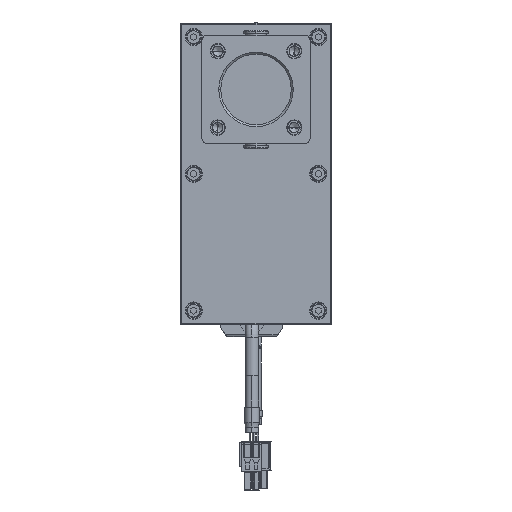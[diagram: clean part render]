
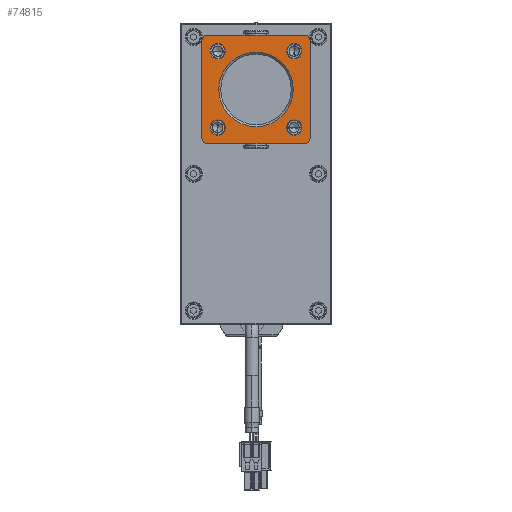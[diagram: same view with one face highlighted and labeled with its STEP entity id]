
A CAD part, front view. The second image highlights one B-rep face of the part: STEP entity #74815.
In plain terms, the highlighted planar face has unit normal (0, -1, 0).
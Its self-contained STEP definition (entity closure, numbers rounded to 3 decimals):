
#73870=CARTESIAN_POINT('',(24.,-4.5,24.));
#73871=DIRECTION('',(0.,-1.,0.));
#73872=DIRECTION('',(1.,0.,0.));
#73873=AXIS2_PLACEMENT_3D('',#73870,#73871,#73872);
#73875=DIRECTION('',(0.,0.,-1.));
#73876=VECTOR('',#73875,48.);
#73877=CARTESIAN_POINT('',(27.,-4.5,24.));
#73878=LINE('',#73877,#73876);
#73879=CARTESIAN_POINT('',(24.,-4.5,-24.));
#73880=DIRECTION('',(0.,-1.,0.));
#73881=DIRECTION('',(0.,0.,-1.));
#73882=AXIS2_PLACEMENT_3D('',#73879,#73880,#73881);
#73884=DIRECTION('',(-1.,0.,0.));
#73885=VECTOR('',#73884,48.);
#73886=CARTESIAN_POINT('',(24.,-4.5,-27.));
#73887=LINE('',#73886,#73885);
#73888=CARTESIAN_POINT('',(-24.,-4.5,-24.));
#73889=DIRECTION('',(0.,-1.,0.));
#73890=DIRECTION('',(-1.,0.,0.));
#73891=AXIS2_PLACEMENT_3D('',#73888,#73889,#73890);
#73893=DIRECTION('',(0.,0.,1.));
#73894=VECTOR('',#73893,48.);
#73895=CARTESIAN_POINT('',(-27.,-4.5,-24.));
#73896=LINE('',#73895,#73894);
#73897=CARTESIAN_POINT('',(-24.,-4.5,24.));
#73898=DIRECTION('',(0.,-1.,0.));
#73899=DIRECTION('',(0.,0.,1.));
#73900=AXIS2_PLACEMENT_3D('',#73897,#73898,#73899);
#73902=DIRECTION('',(1.,0.,0.));
#73903=VECTOR('',#73902,48.);
#73904=CARTESIAN_POINT('',(-24.,-4.5,27.));
#73905=LINE('',#73904,#73903);
#73906=CARTESIAN_POINT('',(19.,-4.5,-19.));
#73907=DIRECTION('',(0.,1.,0.));
#73908=DIRECTION('',(1.,0.,0.));
#73909=AXIS2_PLACEMENT_3D('',#73906,#73907,#73908);
#73911=CARTESIAN_POINT('',(19.,-4.5,-19.));
#73912=DIRECTION('',(0.,1.,0.));
#73913=DIRECTION('',(-1.,0.,0.));
#73914=AXIS2_PLACEMENT_3D('',#73911,#73912,#73913);
#73916=CARTESIAN_POINT('',(19.,-4.5,19.));
#73917=DIRECTION('',(0.,1.,0.));
#73918=DIRECTION('',(-1.,0.,0.));
#73919=AXIS2_PLACEMENT_3D('',#73916,#73917,#73918);
#73921=CARTESIAN_POINT('',(19.,-4.5,19.));
#73922=DIRECTION('',(0.,1.,0.));
#73923=DIRECTION('',(1.,0.,0.));
#73924=AXIS2_PLACEMENT_3D('',#73921,#73922,#73923);
#73926=CARTESIAN_POINT('',(-19.,-4.5,19.));
#73927=DIRECTION('',(0.,1.,0.));
#73928=DIRECTION('',(-1.,0.,0.));
#73929=AXIS2_PLACEMENT_3D('',#73926,#73927,#73928);
#73931=CARTESIAN_POINT('',(-19.,-4.5,19.));
#73932=DIRECTION('',(0.,1.,0.));
#73933=DIRECTION('',(1.,0.,0.));
#73934=AXIS2_PLACEMENT_3D('',#73931,#73932,#73933);
#73936=CARTESIAN_POINT('',(-19.,-4.5,-19.));
#73937=DIRECTION('',(0.,1.,0.));
#73938=DIRECTION('',(1.,0.,0.));
#73939=AXIS2_PLACEMENT_3D('',#73936,#73937,#73938);
#73941=CARTESIAN_POINT('',(-19.,-4.5,-19.));
#73942=DIRECTION('',(0.,1.,0.));
#73943=DIRECTION('',(-1.,0.,0.));
#73944=AXIS2_PLACEMENT_3D('',#73941,#73942,#73943);
#73946=CARTESIAN_POINT('',(0.,-4.5,0.));
#73947=DIRECTION('',(0.,1.,0.));
#73948=DIRECTION('',(0.,0.,1.));
#73949=AXIS2_PLACEMENT_3D('',#73946,#73947,#73948);
#73951=CARTESIAN_POINT('',(0.,-4.5,0.));
#73952=DIRECTION('',(0.,1.,0.));
#73953=DIRECTION('',(0.,0.,-1.));
#73954=AXIS2_PLACEMENT_3D('',#73951,#73952,#73953);
#74606=CARTESIAN_POINT('',(27.,-4.5,24.));
#74607=CARTESIAN_POINT('',(24.,-4.5,27.));
#74608=VERTEX_POINT('',#74606);
#74609=VERTEX_POINT('',#74607);
#74614=CARTESIAN_POINT('',(-24.,-4.5,27.));
#74615=CARTESIAN_POINT('',(-27.,-4.5,24.));
#74616=VERTEX_POINT('',#74614);
#74617=VERTEX_POINT('',#74615);
#74622=CARTESIAN_POINT('',(24.,-4.5,-27.));
#74623=CARTESIAN_POINT('',(27.,-4.5,-24.));
#74624=VERTEX_POINT('',#74622);
#74625=VERTEX_POINT('',#74623);
#74630=CARTESIAN_POINT('',(-27.,-4.5,-24.));
#74631=CARTESIAN_POINT('',(-24.,-4.5,-27.));
#74632=VERTEX_POINT('',#74630);
#74633=VERTEX_POINT('',#74631);
#74654=CARTESIAN_POINT('',(22.8,-4.5,-19.));
#74655=CARTESIAN_POINT('',(15.2,-4.5,-19.));
#74656=VERTEX_POINT('',#74654);
#74657=VERTEX_POINT('',#74655);
#74662=CARTESIAN_POINT('',(15.2,-4.5,19.));
#74663=CARTESIAN_POINT('',(22.8,-4.5,19.));
#74664=VERTEX_POINT('',#74662);
#74665=VERTEX_POINT('',#74663);
#74670=CARTESIAN_POINT('',(-22.8,-4.5,19.));
#74671=CARTESIAN_POINT('',(-15.2,-4.5,19.));
#74672=VERTEX_POINT('',#74670);
#74673=VERTEX_POINT('',#74671);
#74678=CARTESIAN_POINT('',(-15.2,-4.5,-19.));
#74679=CARTESIAN_POINT('',(-22.8,-4.5,-19.));
#74680=VERTEX_POINT('',#74678);
#74681=VERTEX_POINT('',#74679);
#74754=CARTESIAN_POINT('',(0.,-4.5,18.5));
#74755=CARTESIAN_POINT('',(0.,-4.5,-18.5));
#74756=VERTEX_POINT('',#74754);
#74757=VERTEX_POINT('',#74755);
#74762=CARTESIAN_POINT('',(0.,-4.5,0.));
#74763=DIRECTION('',(0.,1.,0.));
#74764=DIRECTION('',(1.,0.,0.));
#74765=AXIS2_PLACEMENT_3D('',#74762,#74763,#74764);
#74766=PLANE('',#74765);
#74768=ORIENTED_EDGE('',*,*,#74767,.F.);
#74770=ORIENTED_EDGE('',*,*,#74769,.T.);
#74772=ORIENTED_EDGE('',*,*,#74771,.F.);
#74774=ORIENTED_EDGE('',*,*,#74773,.T.);
#74776=ORIENTED_EDGE('',*,*,#74775,.F.);
#74778=ORIENTED_EDGE('',*,*,#74777,.T.);
#74780=ORIENTED_EDGE('',*,*,#74779,.F.);
#74782=ORIENTED_EDGE('',*,*,#74781,.T.);
#74783=EDGE_LOOP('',(#74768,#74770,#74772,#74774,#74776,#74778,#74780,#74782));
#74784=FACE_OUTER_BOUND('',#74783,.F.);
#74786=ORIENTED_EDGE('',*,*,#74785,.F.);
#74788=ORIENTED_EDGE('',*,*,#74787,.F.);
#74789=EDGE_LOOP('',(#74786,#74788));
#74790=FACE_BOUND('',#74789,.F.);
#74792=ORIENTED_EDGE('',*,*,#74791,.F.);
#74794=ORIENTED_EDGE('',*,*,#74793,.F.);
#74795=EDGE_LOOP('',(#74792,#74794));
#74796=FACE_BOUND('',#74795,.F.);
#74798=ORIENTED_EDGE('',*,*,#74797,.F.);
#74800=ORIENTED_EDGE('',*,*,#74799,.F.);
#74801=EDGE_LOOP('',(#74798,#74800));
#74802=FACE_BOUND('',#74801,.F.);
#74804=ORIENTED_EDGE('',*,*,#74803,.F.);
#74806=ORIENTED_EDGE('',*,*,#74805,.F.);
#74807=EDGE_LOOP('',(#74804,#74806));
#74808=FACE_BOUND('',#74807,.F.);
#74810=ORIENTED_EDGE('',*,*,#74809,.F.);
#74812=ORIENTED_EDGE('',*,*,#74811,.F.);
#74813=EDGE_LOOP('',(#74810,#74812));
#74814=FACE_BOUND('',#74813,.F.);
#74815=ADVANCED_FACE('',(#74784,#74790,#74796,#74802,#74808,#74814),#74766,.F.);
#73874=CIRCLE('',#73873,3.);
#73883=CIRCLE('',#73882,3.);
#73892=CIRCLE('',#73891,3.);
#73901=CIRCLE('',#73900,3.);
#73910=CIRCLE('',#73909,3.8);
#73915=CIRCLE('',#73914,3.8);
#73920=CIRCLE('',#73919,3.8);
#73925=CIRCLE('',#73924,3.8);
#73930=CIRCLE('',#73929,3.8);
#73935=CIRCLE('',#73934,3.8);
#73940=CIRCLE('',#73939,3.8);
#73945=CIRCLE('',#73944,3.8);
#73950=CIRCLE('',#73949,18.5);
#73955=CIRCLE('',#73954,18.5);
#74767=EDGE_CURVE('',#74608,#74609,#73874,.T.);
#74769=EDGE_CURVE('',#74608,#74625,#73878,.T.);
#74771=EDGE_CURVE('',#74624,#74625,#73883,.T.);
#74773=EDGE_CURVE('',#74624,#74633,#73887,.T.);
#74775=EDGE_CURVE('',#74632,#74633,#73892,.T.);
#74777=EDGE_CURVE('',#74632,#74617,#73896,.T.);
#74779=EDGE_CURVE('',#74616,#74617,#73901,.T.);
#74781=EDGE_CURVE('',#74616,#74609,#73905,.T.);
#74785=EDGE_CURVE('',#74656,#74657,#73910,.T.);
#74787=EDGE_CURVE('',#74657,#74656,#73915,.T.);
#74791=EDGE_CURVE('',#74664,#74665,#73920,.T.);
#74793=EDGE_CURVE('',#74665,#74664,#73925,.T.);
#74797=EDGE_CURVE('',#74672,#74673,#73930,.T.);
#74799=EDGE_CURVE('',#74673,#74672,#73935,.T.);
#74803=EDGE_CURVE('',#74680,#74681,#73940,.T.);
#74805=EDGE_CURVE('',#74681,#74680,#73945,.T.);
#74809=EDGE_CURVE('',#74756,#74757,#73950,.T.);
#74811=EDGE_CURVE('',#74757,#74756,#73955,.T.);
